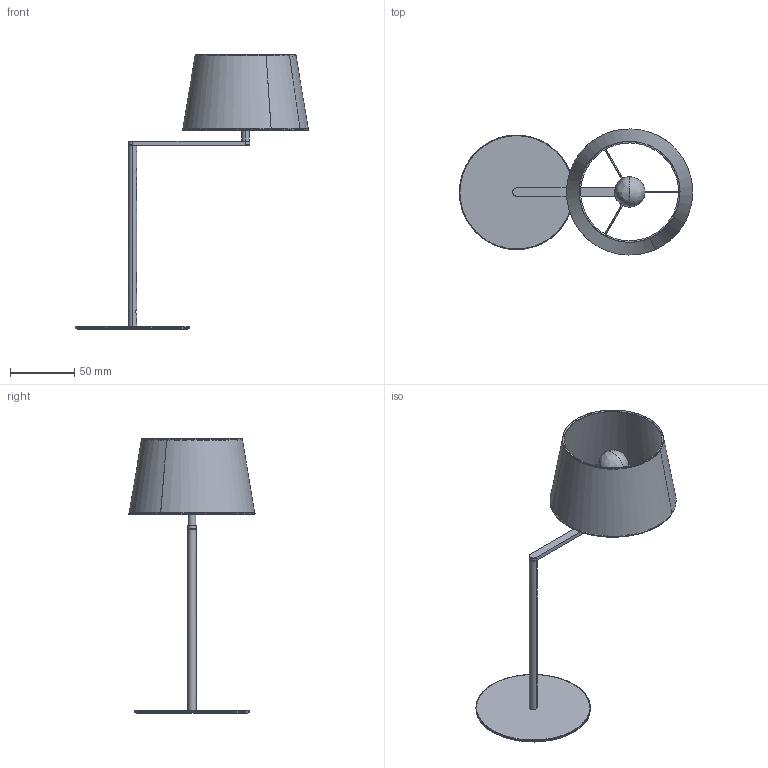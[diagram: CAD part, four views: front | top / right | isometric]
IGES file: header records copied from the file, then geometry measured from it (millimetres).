
Global section: file name: Americana; native system: Unknown; preprocessor: BodyObjectToATFToIges; author: Autodesk 3ds Max; organization: Autodesk; date: 20180116.163758; units: centimetre
Bounding box: 182.09 x 98.4 x 214.2 mm (x, y, z)
Volume: 12698.1 mm3; surface area: 69656.3 mm2
Topology: 5 solids, 5 shells, 148 faces, 660 edges, 586 vertices
Faces by surface type: bspline 93, revolution 55
